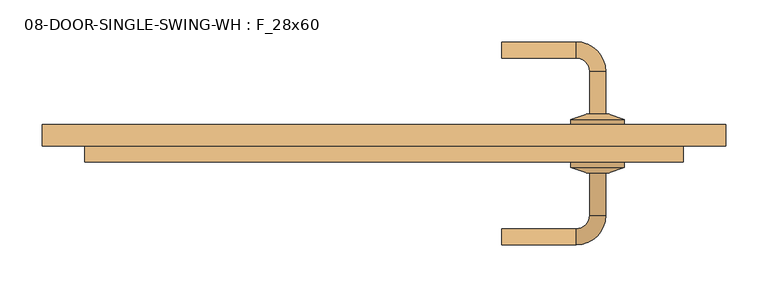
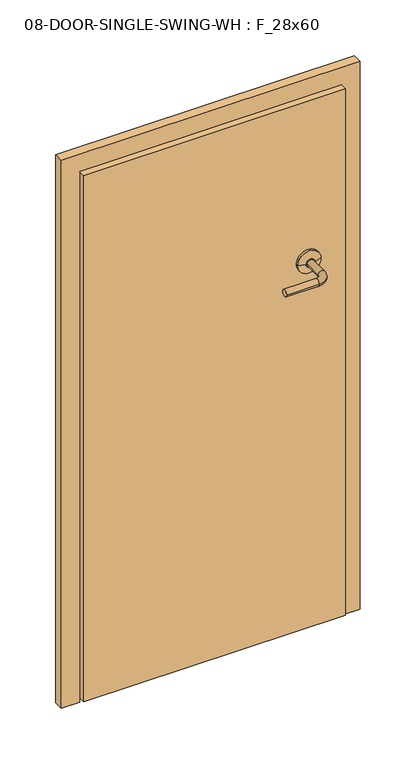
"""IFC4 building model written with IfcOpenShell, lengths in millimetres: door geometry, 08-DOOR-SINGLE-SWING-WH : F_28x60."""

from ifc_helpers import new_model, si_unit, point, frame, origin, place, context, project, spatial, polyline, circle_curve, ellipse_curve, trimmed, outline, extrude, source, transform, mapped, element, save
from ifc_brep_helpers import plane_surface, cylinder_surface, revolved_surface, advanced_brep


def door_08_door_single_swing_wh_f_28x60_77af0ad2(model_context):
    return source(origin(), model_context, "Body", "SolidModel", [
        advanced_brep(
        [(262.8403202, -44.45, 1066.8), (281.8903202, -44.45, 1066.8), (281.8903202, -95.25, 1066.8), (262.8403202, -95.25, 1066.8), (246.9653202, -111.125, 1066.8), (246.9653202, -130.175, 1066.8), (158.0653202, -111.125, 1066.8), (158.0653202, -130.175, 1066.8)],
        [
            (0, 1, circle_curve(frame((272.3653202, -44.45, 1066.8), z_axis=(0.0, 1.0, 0.0), x_axis=(1.0, 0.0, 0.0)), 9.525)),
            (1, 0, circle_curve(frame((272.3653202, -44.45, 1066.8), z_axis=(0.0, 1.0, 0.0), x_axis=(1.0, 0.0, 0.0)), 9.525)),
            (1, 2),
            (2, 3, circle_curve(frame((272.3653202, -95.25, 1066.8), z_axis=(0.0, 1.0, 0.0), x_axis=(1.0, 0.0, 0.0)), 9.525)),
            (3, 0),
            (3, 2, circle_curve(frame((272.3653202, -95.25, 1066.8), z_axis=(0.0, 1.0, 0.0), x_axis=(1.0, 0.0, 0.0)), 9.525)),
            (4, 3, circle_curve(frame((246.9653202, -95.25, 1066.8), z_axis=(0.0, 0.0, 1.0), x_axis=(1.0, 0.0, 0.0)), 15.875)),
            (2, 5, circle_curve(frame((246.9653202, -95.25, 1066.8), z_axis=(0.0, 0.0, -1.0), x_axis=(1.0, 0.0, 0.0)), 34.925)),
            (5, 4, circle_curve(frame((246.9653202, -120.65, 1066.8), z_axis=(1.0, 0.0, 0.0), x_axis=(0.0, -1.0, 0.0)), 9.525)),
            (4, 5, circle_curve(frame((246.9653202, -120.65, 1066.8), z_axis=(1.0, 0.0, 0.0), x_axis=(0.0, -1.0, 0.0)), 9.525)),
            (6, 7, circle_curve(frame((158.0653202, -120.65, 1066.8), z_axis=(-1.0, 0.0, 0.0), x_axis=(0.0, -1.0, 0.0)), 9.525)),
            (7, 6, circle_curve(frame((158.0653202, -120.65, 1066.8), z_axis=(-1.0, 0.0, 0.0), x_axis=(0.0, -1.0, 0.0)), 9.525)),
            (5, 7),
            (6, 4),
        ],
        [
            plane_surface(frame((272.3653202, -44.45, 1066.8), z_axis=(0.0, 1.0, 0.0), x_axis=(0.0, 0.0, 1.0))),
            cylinder_surface(frame((272.3653202, -44.45, 1066.8), z_axis=(0.0, 1.0, 0.0), x_axis=(1.0, 0.0, 0.0)), 9.525),
            revolved_surface(trimmed(ellipse_curve(frame((272.3653202, -95.25, 1066.8), z_axis=(0.0, 1.0, 0.0), x_axis=(1.0, 0.0, 0.0)), 9.525, 9.525), [point((281.8903202, -95.25, 1066.8))], [point((262.8403202, -95.25, 1066.8))], True, "CARTESIAN"), (246.9653202, -95.25, 1066.8), (0.0, 0.0, -1.0)),
            revolved_surface(trimmed(ellipse_curve(frame((272.3653202, -95.25, 1066.8), z_axis=(0.0, 1.0, 0.0), x_axis=(1.0, 0.0, 0.0)), 9.525, 9.525), [point((262.8403202, -95.25, 1066.8))], [point((281.8903202, -95.25, 1066.8))], True, "CARTESIAN"), (246.9653202, -95.25, 1066.8), (0.0, 0.0, -1.0)),
            plane_surface(frame((158.0653202, -120.65, 1066.8), z_axis=(-1.0, 0.0, 0.0), x_axis=(0.0, 0.0, 1.0))),
            cylinder_surface(frame((246.9653202, -120.65, 1066.8), z_axis=(1.0, 0.0, 0.0), x_axis=(0.0, -1.0, 0.0)), 9.525),
        ],
        [
            (0, [[1, 2]]),
            (1, [[-2, 3, 4, 5]]),
            (1, [[-1, -5, 6, -3]]),
            (2, [[7, -4, 8, 9]]),
            (3, [[-8, -6, -7, 10]]),
            (4, [[11, 12]]),
            (5, [[-9, 13, -11, 14]]),
            (5, [[-10, -14, -12, -13]]),
        ],
    ),
        advanced_brep(
        [(272.3653202, -31.75, 1066.8), (304.1153202, -31.75, 1066.8), (240.6153202, -31.75, 1066.8), (304.1153202, -38.1, 1066.8), (240.6153202, -38.1, 1066.8), (285.0653202, -44.45, 1066.8), (259.6653202, -44.45, 1066.8), (272.3653202, -44.45, 1066.8)],
        [
            (0, 1),
            (1, 2, circle_curve(frame((272.3653202, -31.75, 1066.8), z_axis=(0.0, 1.0, 0.0), x_axis=(1.0, 0.0, 0.0)), 31.75)),
            (2, 0),
            (2, 1, circle_curve(frame((272.3653202, -31.75, 1066.8), z_axis=(0.0, 1.0, 0.0), x_axis=(1.0, 0.0, 0.0)), 31.75)),
            (1, 3),
            (3, 4, circle_curve(frame((272.3653202, -38.1, 1066.8), z_axis=(0.0, 1.0, 0.0), x_axis=(1.0, 0.0, 0.0)), 31.75)),
            (4, 2),
            (4, 3, circle_curve(frame((272.3653202, -38.1, 1066.8), z_axis=(0.0, 1.0, 0.0), x_axis=(1.0, 0.0, 0.0)), 31.75)),
            (3, 5),
            (5, 6, circle_curve(frame((272.3653202, -44.45, 1066.8), z_axis=(0.0, 1.0, 0.0), x_axis=(1.0, 0.0, 0.0)), 12.7)),
            (6, 4),
            (6, 5, circle_curve(frame((272.3653202, -44.45, 1066.8), z_axis=(0.0, 1.0, 0.0), x_axis=(1.0, 0.0, 0.0)), 12.7)),
            (5, 7),
            (7, 6),
        ],
        [
            plane_surface(frame((272.3653202, -31.75, 1066.8), z_axis=(0.0, 1.0, 0.0), x_axis=(1.0, 0.0, 0.0))),
            cylinder_surface(frame((272.3653202, -41.3581496, 1066.8), z_axis=(0.0, 1.0, 0.0), x_axis=(1.0, 0.0, 0.0)), 31.75),
            revolved_surface(polyline([(285.0653202, -44.45, 1066.8), (304.1153202, -38.1, 1066.8)]), (272.3653202, -41.3581496, 1066.8), (0.0, 1.0, 0.0)),
            plane_surface(frame((272.3653202, -44.45, 1066.8), z_axis=(0.0, -1.0, 0.0), x_axis=(1.0, 0.0, 0.0))),
        ],
        [
            (0, [[1, 2, 3]]),
            (0, [[-3, 4, -1]]),
            (1, [[-2, 5, 6, 7]]),
            (1, [[-4, -7, 8, -5]]),
            (2, [[-6, 9, 10, 11]]),
            (2, [[-8, -11, 12, -9]]),
            (3, [[-10, 13, 14]]),
            (3, [[-12, -14, -13]]),
        ],
    ),
        advanced_brep(
        [(281.8903202, 25.4, 1066.8), (262.8403202, 25.4, 1066.8), (281.8903202, 76.2, 1066.8), (262.8403202, 76.2, 1066.8), (246.9653202, 92.075, 1066.8), (246.9653202, 111.125, 1066.8), (158.0653202, 111.125, 1066.8), (158.0653202, 92.075, 1066.8)],
        [
            (0, 1, circle_curve(frame((272.3653202, 25.4, 1066.8), z_axis=(0.0, -1.0, 0.0), x_axis=(-1.0, 0.0, 0.0)), 9.525)),
            (1, 0, circle_curve(frame((272.3653202, 25.4, 1066.8), z_axis=(0.0, -1.0, 0.0), x_axis=(-1.0, 0.0, 0.0)), 9.525)),
            (0, 2),
            (2, 3, circle_curve(frame((272.3653202, 76.2, 1066.8), z_axis=(0.0, -1.0, 0.0), x_axis=(-1.0, 0.0, 0.0)), 9.525)),
            (3, 1),
            (3, 2, circle_curve(frame((272.3653202, 76.2, 1066.8), z_axis=(0.0, -1.0, 0.0), x_axis=(-1.0, 0.0, 0.0)), 9.525)),
            (4, 3, circle_curve(frame((246.9653202, 76.2, 1066.8), z_axis=(0.0, 0.0, -1.0), x_axis=(1.0, 0.0, 0.0)), 15.875)),
            (2, 5, circle_curve(frame((246.9653202, 76.2, 1066.8), z_axis=(0.0, 0.0, 1.0), x_axis=(1.0, 0.0, 0.0)), 34.925)),
            (5, 4, circle_curve(frame((246.9653202, 101.6, 1066.8), z_axis=(1.0, 0.0, 0.0), x_axis=(0.0, -1.0, 0.0)), 9.525)),
            (4, 5, circle_curve(frame((246.9653202, 101.6, 1066.8), z_axis=(1.0, 0.0, 0.0), x_axis=(0.0, -1.0, 0.0)), 9.525)),
            (6, 7, circle_curve(frame((158.0653202, 101.6, 1066.8), z_axis=(-1.0, 0.0, 0.0), x_axis=(0.0, -1.0, 0.0)), 9.525)),
            (7, 6, circle_curve(frame((158.0653202, 101.6, 1066.8), z_axis=(-1.0, 0.0, 0.0), x_axis=(0.0, -1.0, 0.0)), 9.525)),
            (5, 6),
            (7, 4),
        ],
        [
            plane_surface(frame((272.3653202, 25.4, 1066.8), z_axis=(0.0, -1.0, 0.0), x_axis=(0.0, 0.0, 1.0))),
            cylinder_surface(frame((272.3653202, 25.4, 1066.8), z_axis=(0.0, -1.0, 0.0), x_axis=(-1.0, 0.0, 0.0)), 9.525),
            revolved_surface(trimmed(ellipse_curve(frame((272.3653202, 76.2, 1066.8), z_axis=(0.0, -1.0, 0.0), x_axis=(-1.0, 0.0, 0.0)), 9.525, 9.525), [point((281.8903202, 76.2, 1066.8))], [point((262.8403202, 76.2, 1066.8))], True, "CARTESIAN"), (246.9653202, 76.2, 1066.8), (0.0, 0.0, 1.0)),
            revolved_surface(trimmed(ellipse_curve(frame((272.3653202, 76.2, 1066.8), z_axis=(0.0, -1.0, 0.0), x_axis=(-1.0, 0.0, 0.0)), 9.525, 9.525), [point((262.8403202, 76.2, 1066.8))], [point((281.8903202, 76.2, 1066.8))], True, "CARTESIAN"), (246.9653202, 76.2, 1066.8), (0.0, 0.0, 1.0)),
            plane_surface(frame((158.0653202, 101.6, 1066.8), z_axis=(-1.0, 0.0, 0.0), x_axis=(0.0, 0.0, 1.0))),
            cylinder_surface(frame((246.9653202, 101.6, 1066.8), z_axis=(1.0, 0.0, 0.0), x_axis=(0.0, -1.0, 0.0)), 9.525),
        ],
        [
            (0, [[1, 2]]),
            (1, [[-1, 3, 4, 5]]),
            (1, [[-2, -5, 6, -3]]),
            (2, [[7, -4, 8, 9]]),
            (3, [[-8, -6, -7, 10]]),
            (4, [[11, 12]]),
            (5, [[-9, 13, -12, 14]]),
            (5, [[-10, -14, -11, -13]]),
        ],
    ),
        advanced_brep(
        [(240.6153202, 12.7, 1066.8), (304.1153202, 12.7, 1066.8), (272.3653202, 12.7, 1066.8), (240.6153202, 19.05, 1066.8), (304.1153202, 19.05, 1066.8), (259.6653202, 25.4, 1066.8), (285.0653202, 25.4, 1066.8), (272.3653202, 25.4, 1066.8)],
        [
            (0, 1, circle_curve(frame((272.3653202, 12.7, 1066.8), z_axis=(0.0, -1.0, 0.0), x_axis=(1.0, 0.0, 0.0)), 31.75)),
            (1, 2),
            (2, 0),
            (1, 0, circle_curve(frame((272.3653202, 12.7, 1066.8), z_axis=(0.0, -1.0, 0.0), x_axis=(1.0, 0.0, 0.0)), 31.75)),
            (3, 4, circle_curve(frame((272.3653202, 19.05, 1066.8), z_axis=(0.0, -1.0, 0.0), x_axis=(1.0, 0.0, 0.0)), 31.75)),
            (4, 1),
            (0, 3),
            (4, 3, circle_curve(frame((272.3653202, 19.05, 1066.8), z_axis=(0.0, -1.0, 0.0), x_axis=(1.0, 0.0, 0.0)), 31.75)),
            (5, 6, circle_curve(frame((272.3653202, 25.4, 1066.8), z_axis=(0.0, -1.0, 0.0), x_axis=(1.0, 0.0, 0.0)), 12.7)),
            (6, 4),
            (3, 5),
            (6, 5, circle_curve(frame((272.3653202, 25.4, 1066.8), z_axis=(0.0, -1.0, 0.0), x_axis=(1.0, 0.0, 0.0)), 12.7)),
            (7, 6),
            (5, 7),
        ],
        [
            plane_surface(frame((272.3653202, 12.7, 1066.8), z_axis=(0.0, -1.0, 0.0), x_axis=(1.0, 0.0, 0.0))),
            cylinder_surface(frame((272.3653202, 22.3081496, 1066.8), z_axis=(0.0, 1.0, 0.0), x_axis=(1.0, 0.0, 0.0)), 31.75),
            revolved_surface(polyline([(304.1153202, 19.05, 1066.8), (285.0653202, 25.4, 1066.8)]), (272.3653202, 22.3081496, 1066.8), (0.0, 1.0, 0.0)),
            plane_surface(frame((272.3653202, 25.4, 1066.8), z_axis=(0.0, 1.0, 0.0), x_axis=(1.0, 0.0, 0.0))),
        ],
        [
            (0, [[1, 2, 3]]),
            (0, [[4, -3, -2]]),
            (1, [[5, 6, -1, 7]]),
            (1, [[8, -7, -4, -6]]),
            (2, [[9, 10, -5, 11]]),
            (2, [[12, -11, -8, -10]]),
            (3, [[13, -9, 14]]),
            (3, [[-14, -12, -13]]),
        ],
    ),
        extrude(outline(polyline([(373.9653202, -31.75), (-337.2346798, -31.75), (-337.2346798, 12.7), (373.9653202, 12.7), (373.9653202, -31.75)])), frame((0.0, 0.0, 12.7), z_axis=(0.0, 0.0, 1.0), x_axis=(1.0, 0.0, 0.0)), (0.0, 0.0, 1.0), 1511.3),
        extrude(outline(polyline([(0.0, 373.9653202), (0.0, 424.7653202), (1574.8, 424.7653202), (1574.8, -388.0346798), (0.0, -388.0346798), (0.0, -337.2346798), (1524.0, -337.2346798), (1524.0, 373.9653202), (0.0, 373.9653202)])), frame((0.0, -12.7, 0.0), z_axis=(0.0, 1.0, 0.0), x_axis=(0.0, 0.0, 1.0)), (0.0, 0.0, 1.0), 25.4),
    ])


if __name__ == "__main__":
    model = new_model("IFC4")
    model_context = context("Model", 3, world=origin())
    ifc_project = project(units=[si_unit("LENGTHUNIT", "METRE", prefix="MILLI")], contexts=[model_context])
    site = spatial("IfcSite", under=ifc_project)
    building = spatial("IfcBuilding", under=site)
    placement = place(None, origin())
    door_08_door_single_swing_wh_f_28x60_shape = door_08_door_single_swing_wh_f_28x60_77af0ad2(model_context)
    element("IfcDoor", 1, ObjectType="08-DOOR-SINGLE-SWING-WH : F_28x60", at=placement, inside=building, context=model_context, shape_type="MappedRepresentation", body=[
        mapped(door_08_door_single_swing_wh_f_28x60_shape, transform((0.0, 0.0, 0.0), x_axis=(1.0, 0.0, 0.0), y_axis=(0.0, 1.0, 0.0), z_axis=(0.0, 0.0, 1.0))),
    ])
    save(model, "model.ifc")
